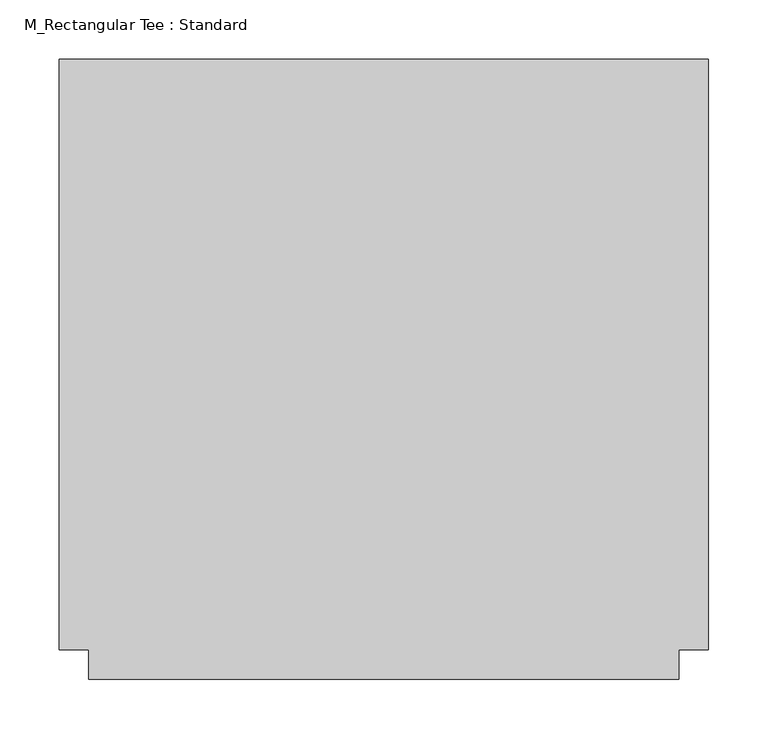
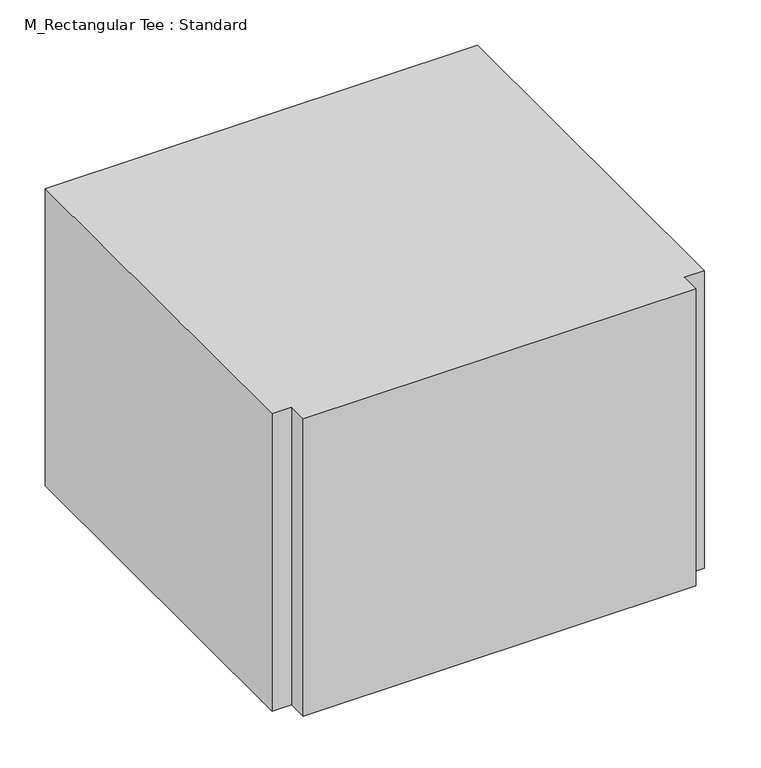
"""IFC4 building model written with IfcOpenShell, lengths in millimetres: duct fitting geometry, M_Rectangular Tee : Standard."""

from ifc_helpers import new_model, si_unit, frame, origin, place, context, project, spatial, polyline, outline, extrude, source, transform, mapped, element, save


def m_rectangular_tee_standard_33c5b147(model_context):
    return source(origin(), model_context, "Body", "SweptSolid", [
        extrude(outline(polyline([(-275.0, -250.0), (-275.0, 250.0), (275.0, 250.0), (275.0, -250.0), (250.0, -250.0), (250.0, -275.0), (-250.0, -275.0), (-250.0, -250.0), (-275.0, -250.0)])), frame((0.0, 0.0, -200.0), z_axis=(0.0, 0.0, 1.0), x_axis=(1.0, 0.0, 0.0)), (0.0, 0.0, 1.0), 400.0),
        extrude(outline(polyline([(-275.0, 250.0), (275.0, 250.0), (275.0, -250.0), (250.0, -250.0), (250.0, -275.0), (-250.0, -275.0), (-250.0, -250.0), (-275.0, -250.0), (-275.0, 250.0)])), frame((0.0, 0.0, -200.0), z_axis=(0.0, 0.0, 1.0), x_axis=(1.0, 0.0, 0.0)), (0.0, 0.0, 1.0), 400.0),
        extrude(outline(polyline([(-275.0, -250.0), (-275.0, 250.0), (275.0, 250.0), (275.0, -250.0), (250.0, -250.0), (250.0, -275.0), (-250.0, -275.0), (-250.0, -250.0), (-275.0, -250.0)])), frame((0.0, 0.0, -200.0), z_axis=(0.0, 0.0, 1.0), x_axis=(1.0, 0.0, 0.0)), (0.0, 0.0, 1.0), 400.0),
    ])


if __name__ == "__main__":
    model = new_model("IFC4")
    model_context = context("Model", 3, world=origin())
    ifc_project = project(units=[si_unit("LENGTHUNIT", "METRE", prefix="MILLI")], contexts=[model_context])
    site = spatial("IfcSite", under=ifc_project)
    building = spatial("IfcBuilding", under=site)
    placement = place(None, origin())
    m_rectangular_tee_standard_shape = m_rectangular_tee_standard_33c5b147(model_context)
    element("IfcDuctFitting", 1, ObjectType="M_Rectangular Tee : Standard", at=placement, inside=building, context=model_context, shape_type="MappedRepresentation", body=[
        mapped(m_rectangular_tee_standard_shape, transform((0.0, 0.0, 0.0), x_axis=(1.0, 0.0, 0.0), y_axis=(0.0, 1.0, 0.0), z_axis=(0.0, 0.0, 1.0))),
    ])
    save(model, "model.ifc")
